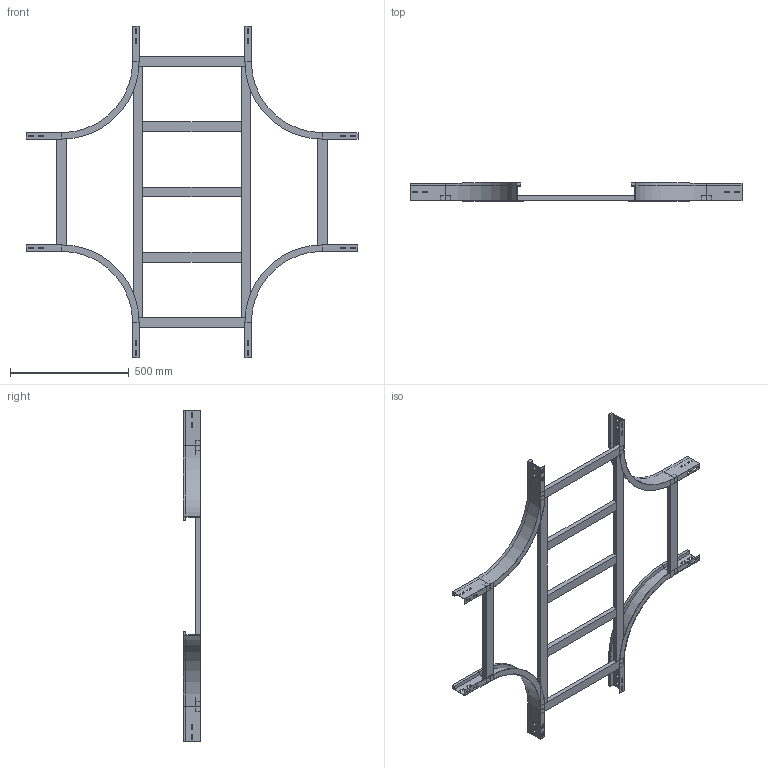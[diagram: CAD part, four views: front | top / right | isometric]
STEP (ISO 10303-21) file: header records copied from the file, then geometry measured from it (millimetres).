
FILE_DESCRIPTION (( 'STEP AP214' ), '1' );
FILE_NAME ('A2_17B3C500.step', '2025-02-21T15:58:38', ( '' ), ( '' ), 'SwSTEP 2.0', 'SolidWorks 2023', '' );
FILE_SCHEMA (( 'AUTOMOTIVE_DESIGN' ));
Length unit declared in the file: millimetre
Products named in the file (5): A2_TRAVERSINO_LONG._R300+500; A2_LONGH.INTERNO 90°_H75_R300; TRAVERSINO_500; A2_17B3C500; TRAVERSINO_INTERMEDIO_R300+500
Assembly tree (13 placements, depth 2):
  A2_17B3C500
    A2_LONGH.INTERNO 90°_H75_R300  x4
    TRAVERSINO_500  x4
    A2_TRAVERSINO_LONG._R300+500  x2
    TRAVERSINO_INTERMEDIO_R300+500  x3
Bounding box: 1400 x 75 x 1400 mm (x, y, z)
Volume: 5548888.1 mm3; surface area: 1395783.6 mm2
Topology: 13 solids, 13 shells, 286 faces, 716 edges, 456 vertices
Faces by surface type: plane 270, cylinder 16
Entity records: 2450 total; most frequent: CARTESIAN_POINT 400, DIRECTION 380, ORIENTED_EDGE 376, EDGE_CURVE 188, LINE 180, VECTOR 180, VERTEX_POINT 120, AXIS2_PLACEMENT_3D 100
